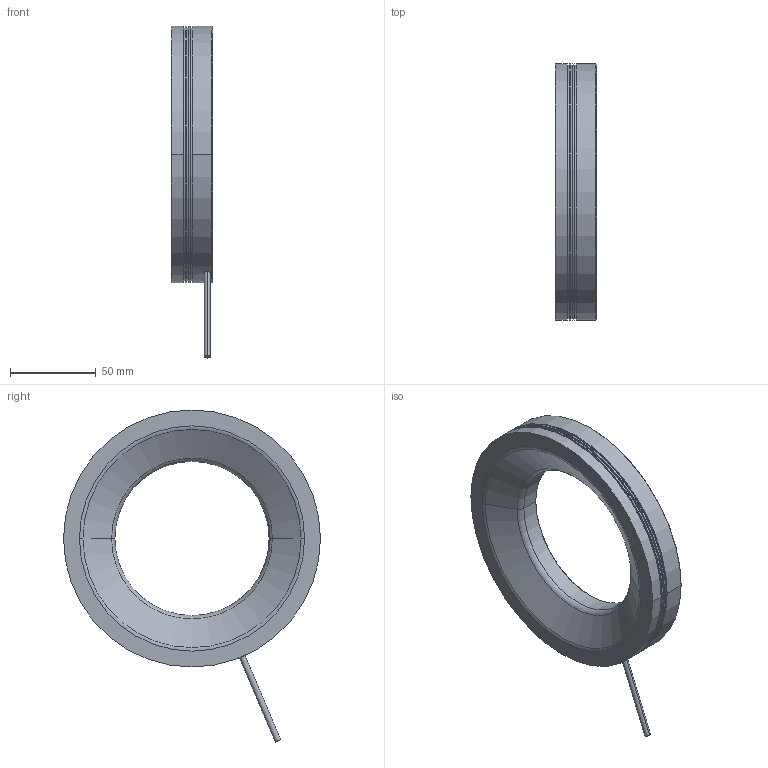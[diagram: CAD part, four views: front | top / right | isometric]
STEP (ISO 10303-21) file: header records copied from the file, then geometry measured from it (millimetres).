
FILE_DESCRIPTION((''),'2;1');
FILE_NAME('2','2021-05-08T',('win 10'),(''),'PRO/ENGINEER BY PARAMETRIC TECHNOLOGY CORPORATION, 2010100','PRO/ENGINEER BY PARAMETRIC TECHNOLOGY CORPORATION, 2010100','');
FILE_SCHEMA(('CONFIG_CONTROL_DESIGN'));
Length unit declared in the file: millimetre
Products named in the file (1): 2
Bounding box: 24 x 150 x 193.78 mm (x, y, z)
Volume: 140533.3 mm3; surface area: 73960 mm2
Topology: 2 solids, 6 shells, 109 faces, 248 edges, 154 vertices
Faces by surface type: cylinder 51, plane 29, cone 19, torus 8, bspline 2
Entity records: 3255 total; most frequent: CARTESIAN_POINT 685, DIRECTION 590, ORIENTED_EDGE 464, AXIS2_PLACEMENT_3D 251, EDGE_CURVE 240, VERTEX_POINT 154, CIRCLE 143, EDGE_LOOP 134
